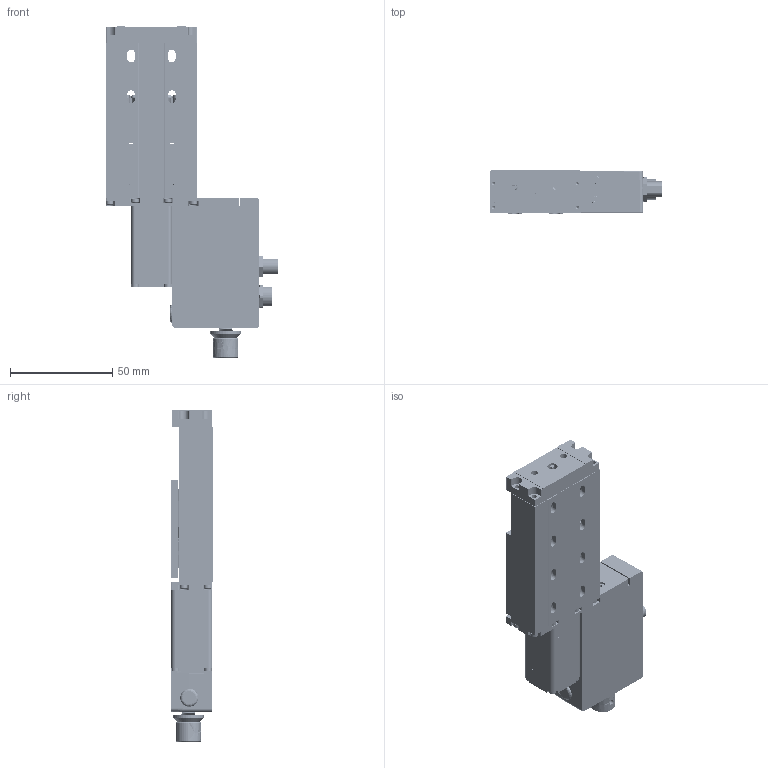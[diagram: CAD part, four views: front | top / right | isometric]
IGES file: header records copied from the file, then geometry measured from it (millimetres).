
Start section: SolidWorks IGES file using analytic representation for surfaces
Global section: file name: C:\Users\mark\Desktop\Offspring\LSM Recirculating Bearing Assembly_CF X-025.igs; native system: SolidWorks 2019; preprocessor: SolidWorks 2019; author: mark; date: 210816.112853; units: millimetre
Bounding box: 84.7 x 21 x 162.6 mm (x, y, z)
Surface area: 85946.1 mm2 (no closed solid volume)
Topology: 0 solids, 0 shells, 4156 faces, 44584 edges, 44453 vertices
Faces by surface type: bspline 2379, revolution 1777
